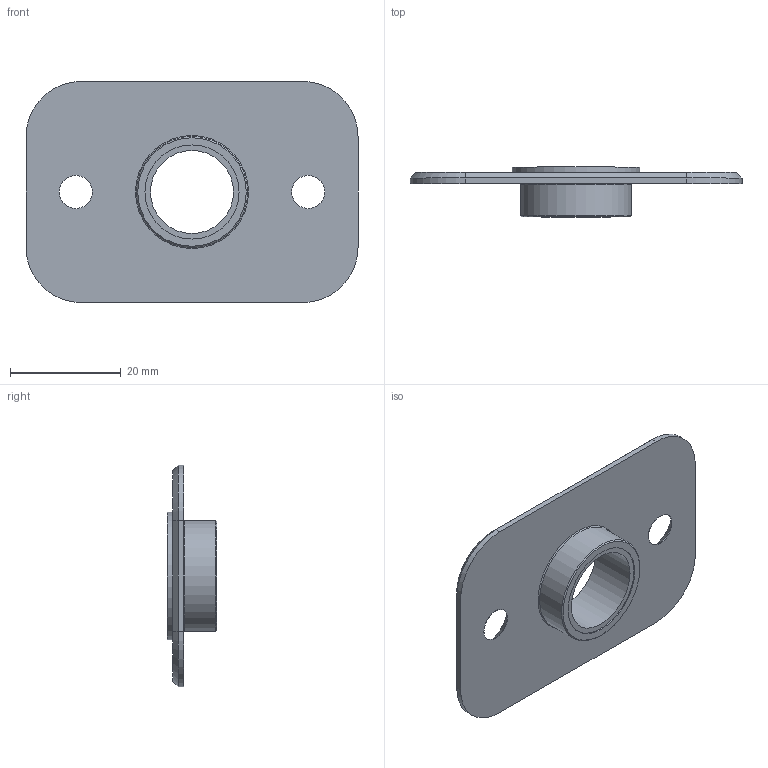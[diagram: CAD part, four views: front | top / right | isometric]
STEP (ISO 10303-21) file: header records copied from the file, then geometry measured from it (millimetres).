
FILE_DESCRIPTION (( 'STEP AP214' ), '1' );
FILE_NAME ('300361 Square Ceiling Plate Cable Entry.STEP', '2020-06-22T14:51:13', ( '' ), ( '' ), 'SwSTEP 2.0', 'SolidWorks 2020', '' );
FILE_SCHEMA (( 'AUTOMOTIVE_DESIGN' ));
Length unit declared in the file: millimetre
Products named in the file (1): 300361 Square Ceiling Plate Cable Entry
Bounding box: 59.95 x 9 x 39.95 mm (x, y, z)
Volume: 5031.8 mm3; surface area: 5313.4 mm2
Topology: 1 solids, 1 shells, 31 faces, 68 edges, 42 vertices
Faces by surface type: plane 13, cylinder 10, cone 7, torus 1
Full cylindrical faces by diameter (mm): 6 x2, 15 x1, 17 x1, 20 x1, 23 x1
Entity records: 828 total; most frequent: DIRECTION 148, CARTESIAN_POINT 128, ORIENTED_EDGE 112, AXIS2_PLACEMENT_3D 60, EDGE_CURVE 56, EDGE_LOOP 50, VERTEX_POINT 40, FACE_OUTER_BOUND 38
